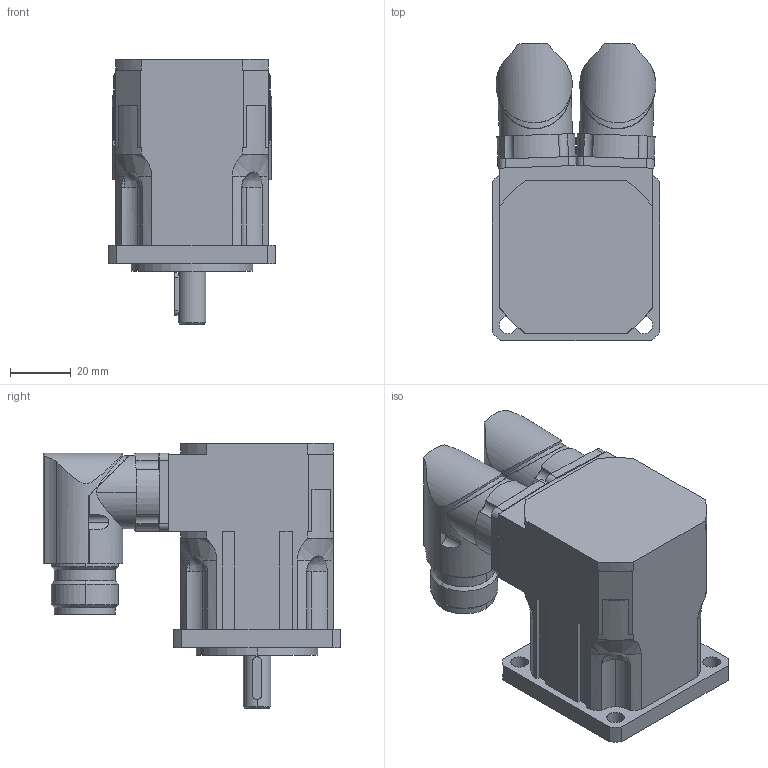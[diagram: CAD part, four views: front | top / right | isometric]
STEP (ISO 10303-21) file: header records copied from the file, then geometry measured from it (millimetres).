
FILE_DESCRIPTION(('STEP AP203'),'2;1');
FILE_NAME('MH2-0025.stp','2006-08-29T18:24:47',(''),(''),'2005.2.102','THINKDESIGN','');
FILE_SCHEMA(('CONFIG_CONTROL_DESIGN'));
Length unit declared in the file: millimetre
Bounding box: 55 x 97.7 x 87 mm (x, y, z)
Volume: 218275.3 mm3; surface area: 41074.8 mm2
Topology: 3 solids, 3 shells, 272 faces, 726 edges, 470 vertices
Faces by surface type: cylinder 122, plane 106, bspline 44
Entity records: 10302 total; most frequent: CARTESIAN_POINT 3441, ORIENTED_EDGE 1452, DIRECTION 1408, EDGE_CURVE 726, AXIS2_PLACEMENT_3D 536, VERTEX_POINT 470, VECTOR 336, LINE 336
